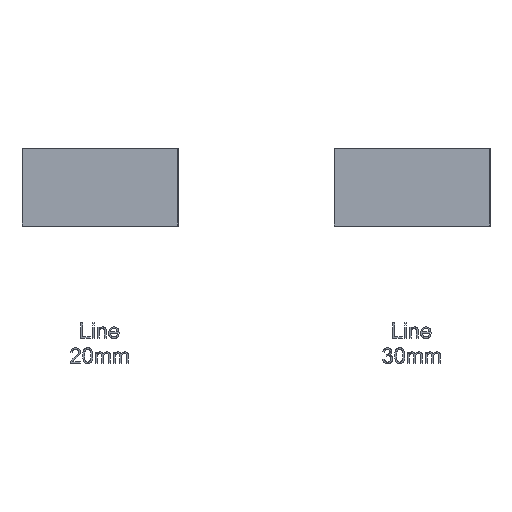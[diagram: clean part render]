
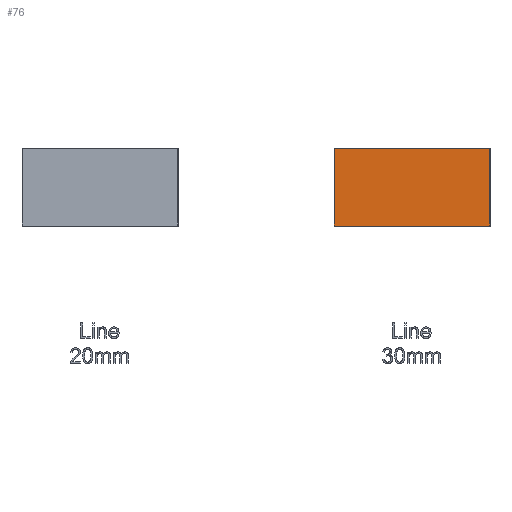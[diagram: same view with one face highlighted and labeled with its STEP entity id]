
A CAD part, top view. The second image highlights one B-rep face of the part: STEP entity #76.
In plain terms, the highlighted planar face has unit normal (0, 0, 1).
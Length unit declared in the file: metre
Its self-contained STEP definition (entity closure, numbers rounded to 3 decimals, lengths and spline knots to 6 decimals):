
#76=ADVANCED_FACE('',(#146),#1290,.T.);
#146=FACE_OUTER_BOUND('',#216,.T.);
#216=EDGE_LOOP('',(#305,#306,#307,#308));
#305=ORIENTED_EDGE('',*,*,#689,.T.);
#306=ORIENTED_EDGE('',*,*,#692,.T.);
#307=ORIENTED_EDGE('',*,*,#690,.T.);
#308=ORIENTED_EDGE('',*,*,#691,.T.);
#689=EDGE_CURVE('',#1025,#1026,#1386,.T.);
#690=EDGE_CURVE('',#1027,#1028,#1387,.T.);
#691=EDGE_CURVE('',#1028,#1025,#1388,.T.);
#692=EDGE_CURVE('',#1026,#1027,#1389,.T.);
#1025=VERTEX_POINT('',#2006);
#1026=VERTEX_POINT('',#2007);
#1027=VERTEX_POINT('',#2008);
#1028=VERTEX_POINT('',#2009);
#1290=PLANE('',#1695);
#1386=B_SPLINE_CURVE_WITH_KNOTS('',1,(#2050,#2051),.UNSPECIFIED.,.F.,.F.,
(2,2),(1.,249.),.UNSPECIFIED.);
#1387=B_SPLINE_CURVE_WITH_KNOTS('',1,(#2052,#2053),.UNSPECIFIED.,.F.,.F.,
(2,2),(1.,249.),.UNSPECIFIED.);
#1388=B_SPLINE_CURVE_WITH_KNOTS('',1,(#2054,#2055),.UNSPECIFIED.,.F.,.F.,
(2,2),(1.,499.),.UNSPECIFIED.);
#1389=B_SPLINE_CURVE_WITH_KNOTS('',1,(#2056,#2057),.UNSPECIFIED.,.F.,.F.,
(2,2),(1.,499.),.UNSPECIFIED.);
#1695=AXIS2_PLACEMENT_3D('',#1793,#1738,$);
#1738=DIRECTION('',(0.,0.,1.));
#1793=CARTESIAN_POINT('',(250.,125.,30.));
#2006=CARTESIAN_POINT('',(249.,-124.,30.));
#2007=CARTESIAN_POINT('',(249.,124.,30.));
#2008=CARTESIAN_POINT('',(-249.,124.,30.));
#2009=CARTESIAN_POINT('',(-249.,-124.,30.));
#2050=CARTESIAN_POINT('',(249.,-124.,30.));
#2051=CARTESIAN_POINT('',(249.,124.,30.));
#2052=CARTESIAN_POINT('',(-249.,124.,30.));
#2053=CARTESIAN_POINT('',(-249.,-124.,30.));
#2054=CARTESIAN_POINT('',(-249.,-124.,30.));
#2055=CARTESIAN_POINT('',(249.,-124.,30.));
#2056=CARTESIAN_POINT('',(249.,124.,30.));
#2057=CARTESIAN_POINT('',(-249.,124.,30.));
